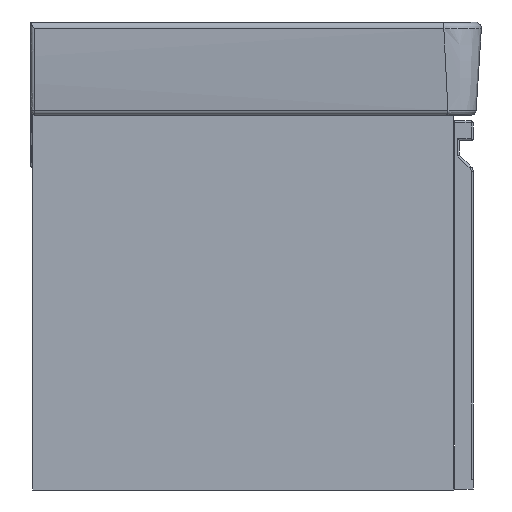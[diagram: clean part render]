
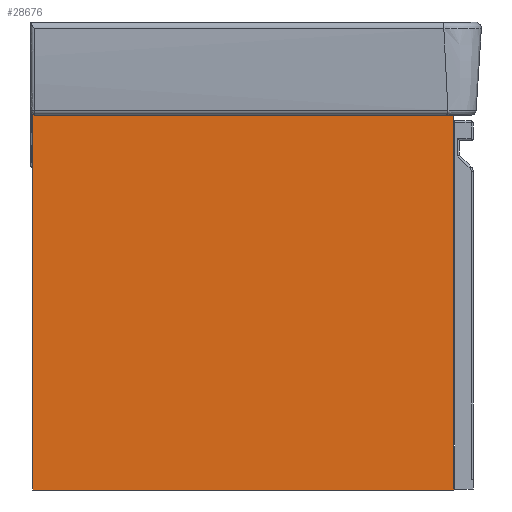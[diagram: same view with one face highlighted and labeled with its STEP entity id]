
A CAD part, left-side view. The second image highlights one B-rep face of the part: STEP entity #28676.
In plain terms, the highlighted planar face has unit normal (-1, 0, 0).
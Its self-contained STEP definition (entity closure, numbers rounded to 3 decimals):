
#1509=PLANE('',#32597);
#4453=LINE('',#120743,#6773);
#4454=LINE('',#120746,#6774);
#4455=LINE('',#120748,#6775);
#4456=LINE('',#120749,#6776);
#6773=VECTOR('',#37365,430.);
#6774=VECTOR('',#37368,387.);
#6775=VECTOR('',#37369,430.);
#6776=VECTOR('',#37370,387.);
#9009=FACE_OUTER_BOUND('',#10399,.T.);
#10399=EDGE_LOOP('',(#23718,#23719,#23720,#23721));
#14923=VERTEX_POINT('',#120736);
#14926=VERTEX_POINT('',#120741);
#14927=VERTEX_POINT('',#120745);
#14928=VERTEX_POINT('',#120747);
#18988=EDGE_CURVE('',#14926,#14923,#4453,.T.);
#18989=EDGE_CURVE('',#14927,#14926,#4454,.T.);
#18990=EDGE_CURVE('',#14928,#14927,#4455,.T.);
#18991=EDGE_CURVE('',#14928,#14923,#4456,.T.);
#23718=ORIENTED_EDGE('',*,*,#18988,.F.);
#23719=ORIENTED_EDGE('',*,*,#18989,.F.);
#23720=ORIENTED_EDGE('',*,*,#18990,.F.);
#23721=ORIENTED_EDGE('',*,*,#18991,.T.);
#28676=ADVANCED_FACE('',(#9009),#1509,.T.);
#32597=AXIS2_PLACEMENT_3D('',#120744,#37366,#37367);
#37365=DIRECTION('',(0.,-1.,0.));
#37366=DIRECTION('center_axis',(-1.,0.,0.));
#37367=DIRECTION('ref_axis',(0.,0.,1.));
#37368=DIRECTION('',(0.,0.,1.));
#37369=DIRECTION('',(0.,1.,0.));
#37370=DIRECTION('',(0.,0.,1.));
#120736=CARTESIAN_POINT('',(-13860.571,-15501.725,-1478.291));
#120741=CARTESIAN_POINT('',(-13860.571,-15071.725,-1478.291));
#120743=CARTESIAN_POINT('',(-13860.571,-15071.725,-1478.291));
#120744=CARTESIAN_POINT('Origin',(-13860.571,-15071.725,-1865.291));
#120745=CARTESIAN_POINT('',(-13860.571,-15071.725,-1865.291));
#120746=CARTESIAN_POINT('',(-13860.571,-15071.725,-1865.291));
#120747=CARTESIAN_POINT('',(-13860.571,-15501.725,-1865.291));
#120748=CARTESIAN_POINT('',(-13860.571,-15501.725,-1865.291));
#120749=CARTESIAN_POINT('',(-13860.571,-15501.725,-1865.291));
